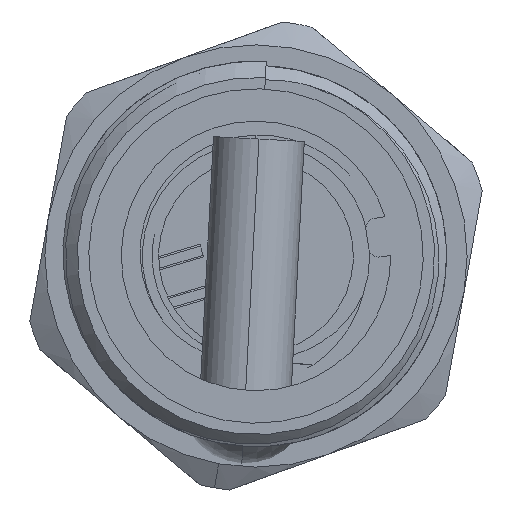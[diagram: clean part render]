
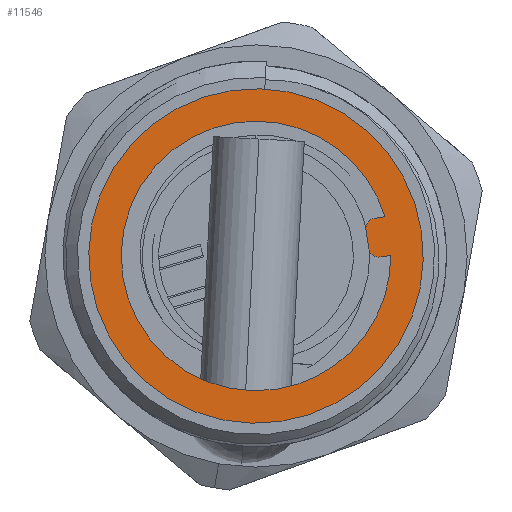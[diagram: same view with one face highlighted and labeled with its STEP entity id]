
A CAD part, front view. The second image highlights one B-rep face of the part: STEP entity #11546.
In plain terms, the highlighted planar face has unit normal (0, -1, 0).
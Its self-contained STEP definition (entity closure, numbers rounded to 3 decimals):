
#190 = DIRECTION ( 'NONE',  ( 0., 1., 0. ) ) ;
#1246 = DIRECTION ( 'NONE',  ( 0., 1., 0. ) ) ;
#1631 = CARTESIAN_POINT ( 'NONE',  ( -29.449, -55.584, 0.02 ) ) ;
#1853 = EDGE_CURVE ( 'NONE', #5005, #13814, #15033, .T. ) ;
#1899 = DIRECTION ( 'NONE',  ( -0.149, 0., 0.989 ) ) ;
#1901 = VERTEX_POINT ( 'NONE', #15745 ) ;
#2603 = ORIENTED_EDGE ( 'NONE', *, *, #9326, .T. ) ;
#2738 = ORIENTED_EDGE ( 'NONE', *, *, #1853, .T. ) ;
#3347 = ORIENTED_EDGE ( 'NONE', *, *, #4412, .T. ) ;
#3364 = CARTESIAN_POINT ( 'NONE',  ( -29.918, -55.584, 0.859 ) ) ;
#3596 = CIRCLE ( 'NONE', #12735, 0.3 ) ;
#3619 = AXIS2_PLACEMENT_3D ( 'NONE', #7707, #15765, #3826 ) ;
#3826 = DIRECTION ( 'NONE',  ( 0.149, 0., -0.989 ) ) ;
#3915 = CIRCLE ( 'NONE', #12780, 4.15 ) ;
#4149 = EDGE_CURVE ( 'NONE', #1901, #4704, #8168, .T. ) ;
#4359 = VECTOR ( 'NONE', #6317, 1000. ) ;
#4412 = EDGE_CURVE ( 'NONE', #11526, #10951, #3596, .T. ) ;
#4624 = ORIENTED_EDGE ( 'NONE', *, *, #4149, .F. ) ;
#4704 = VERTEX_POINT ( 'NONE', #17296 ) ;
#4982 = CARTESIAN_POINT ( 'NONE',  ( -30.125, -55.584, 0.221 ) ) ;
#5005 = VERTEX_POINT ( 'NONE', #6499 ) ;
#5805 = DIRECTION ( 'NONE',  ( 0., -1., 0. ) ) ;
#6317 = DIRECTION ( 'NONE',  ( 0.149, 0., -0.989 ) ) ;
#6499 = CARTESIAN_POINT ( 'NONE',  ( -30.125, -55.584, 0.221 ) ) ;
#6577 = CARTESIAN_POINT ( 'NONE',  ( -32.979, -55.584, -4.103 ) ) ;
#6642 = CARTESIAN_POINT ( 'NONE',  ( -30.215, -55.584, 0.814 ) ) ;
#6704 = DIRECTION ( 'NONE',  ( 0., 1., 0. ) ) ;
#6741 = EDGE_CURVE ( 'NONE', #13519, #15963, #16951, .T. ) ;
#6823 = CIRCLE ( 'NONE', #9689, 4.15 ) ;
#6842 = DIRECTION ( 'NONE',  ( 0.149, 0., -0.989 ) ) ;
#7213 = DIRECTION ( 'NONE',  ( 0., -1., 0. ) ) ;
#7267 = VECTOR ( 'NONE', #9604, 1000. ) ;
#7707 = CARTESIAN_POINT ( 'NONE',  ( -33.599, -55.584, 0. ) ) ;
#7984 = EDGE_LOOP ( 'NONE', ( #13056, #14306, #9171, #2603, #3347, #10049, #2738, #13792 ) ) ;
#8025 = AXIS2_PLACEMENT_3D ( 'NONE', #13370, #6704, #10700 ) ;
#8168 = CIRCLE ( 'NONE', #14075, 5.15 ) ;
#8239 = EDGE_CURVE ( 'NONE', #4704, #1901, #8715, .T. ) ;
#8302 = LINE ( 'NONE', #4982, #4359 ) ;
#8354 = EDGE_CURVE ( 'NONE', #10951, #5005, #8302, .T. ) ;
#8571 = EDGE_CURVE ( 'NONE', #15963, #11536, #3915, .T. ) ;
#8715 = CIRCLE ( 'NONE', #3619, 5.15 ) ;
#9171 = ORIENTED_EDGE ( 'NONE', *, *, #12257, .T. ) ;
#9326 = EDGE_CURVE ( 'NONE', #12942, #11526, #16176, .T. ) ;
#9419 = CARTESIAN_POINT ( 'NONE',  ( -37.702, -55.584, -0.62 ) ) ;
#9604 = DIRECTION ( 'NONE',  ( 0.989, 0., 0.149 ) ) ;
#9689 = AXIS2_PLACEMENT_3D ( 'NONE', #10204, #14385, #17003 ) ;
#10049 = ORIENTED_EDGE ( 'NONE', *, *, #8354, .T. ) ;
#10204 = CARTESIAN_POINT ( 'NONE',  ( -33.599, -55.584, 0. ) ) ;
#10294 = CARTESIAN_POINT ( 'NONE',  ( -29.828, -55.584, 0.266 ) ) ;
#10543 = DIRECTION ( 'NONE',  ( 0.149, 0., -0.989 ) ) ;
#10700 = DIRECTION ( 'NONE',  ( 0.149, 0., -0.989 ) ) ;
#10873 = CARTESIAN_POINT ( 'NONE',  ( -29.449, -55.584, 0.02 ) ) ;
#10951 = VERTEX_POINT ( 'NONE', #6642 ) ;
#10979 = EDGE_CURVE ( 'NONE', #13814, #13519, #12050, .T. ) ;
#11067 = EDGE_LOOP ( 'NONE', ( #4624, #13243 ) ) ;
#11526 = VERTEX_POINT ( 'NONE', #15888 ) ;
#11536 = VERTEX_POINT ( 'NONE', #13289 ) ;
#11546 = ADVANCED_FACE ( 'NONE', ( #13103, #13311 ), #11904, .T. ) ;
#11680 = CARTESIAN_POINT ( 'NONE',  ( -29.784, -55.584, -0.031 ) ) ;
#11904 = PLANE ( 'NONE',  #13953 ) ;
#12050 = LINE ( 'NONE', #1631, #7267 ) ;
#12061 = DIRECTION ( 'NONE',  ( -0.989, 0., -0.149 ) ) ;
#12257 = EDGE_CURVE ( 'NONE', #11536, #12942, #6823, .T. ) ;
#12264 = CARTESIAN_POINT ( 'NONE',  ( -33.599, -55.584, 0. ) ) ;
#12735 = AXIS2_PLACEMENT_3D ( 'NONE', #3364, #5805, #1899 ) ;
#12780 = AXIS2_PLACEMENT_3D ( 'NONE', #12264, #190, #6842 ) ;
#12942 = VERTEX_POINT ( 'NONE', #15005 ) ;
#13056 = ORIENTED_EDGE ( 'NONE', *, *, #6741, .T. ) ;
#13079 = DIRECTION ( 'NONE',  ( 0., -1., 0. ) ) ;
#13103 = FACE_BOUND ( 'NONE', #7984, .T. ) ;
#13136 = DIRECTION ( 'NONE',  ( -0.149, 0., 0.989 ) ) ;
#13243 = ORIENTED_EDGE ( 'NONE', *, *, #8239, .F. ) ;
#13289 = CARTESIAN_POINT ( 'NONE',  ( -34.218, -55.584, 4.103 ) ) ;
#13311 = FACE_OUTER_BOUND ( 'NONE', #11067, .T. ) ;
#13370 = CARTESIAN_POINT ( 'NONE',  ( -33.599, -55.584, 0. ) ) ;
#13378 = AXIS2_PLACEMENT_3D ( 'NONE', #10294, #13079, #13136 ) ;
#13519 = VERTEX_POINT ( 'NONE', #10873 ) ;
#13792 = ORIENTED_EDGE ( 'NONE', *, *, #10979, .T. ) ;
#13814 = VERTEX_POINT ( 'NONE', #11680 ) ;
#13953 = AXIS2_PLACEMENT_3D ( 'NONE', #9419, #7213, #16152 ) ;
#14075 = AXIS2_PLACEMENT_3D ( 'NONE', #17297, #1246, #10543 ) ;
#14306 = ORIENTED_EDGE ( 'NONE', *, *, #8571, .T. ) ;
#14385 = DIRECTION ( 'NONE',  ( 0., 1., 0. ) ) ;
#14527 = VECTOR ( 'NONE', #12061, 1000. ) ;
#14712 = CARTESIAN_POINT ( 'NONE',  ( -29.963, -55.584, 1.156 ) ) ;
#15005 = CARTESIAN_POINT ( 'NONE',  ( -29.628, -55.584, 1.206 ) ) ;
#15033 = CIRCLE ( 'NONE', #13378, 0.3 ) ;
#15745 = CARTESIAN_POINT ( 'NONE',  ( -32.83, -55.584, -5.092 ) ) ;
#15765 = DIRECTION ( 'NONE',  ( 0., 1., 0. ) ) ;
#15888 = CARTESIAN_POINT ( 'NONE',  ( -29.963, -55.584, 1.156 ) ) ;
#15963 = VERTEX_POINT ( 'NONE', #6577 ) ;
#16152 = DIRECTION ( 'NONE',  ( -0.149, 0., 0.989 ) ) ;
#16176 = LINE ( 'NONE', #14712, #14527 ) ;
#16951 = CIRCLE ( 'NONE', #8025, 4.15 ) ;
#17003 = DIRECTION ( 'NONE',  ( 0.149, 0., -0.989 ) ) ;
#17296 = CARTESIAN_POINT ( 'NONE',  ( -34.368, -55.584, 5.092 ) ) ;
#17297 = CARTESIAN_POINT ( 'NONE',  ( -33.599, -55.584, 0. ) ) ;
